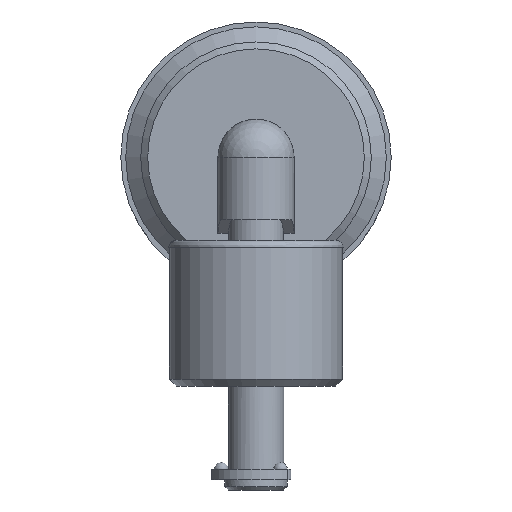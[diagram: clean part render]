
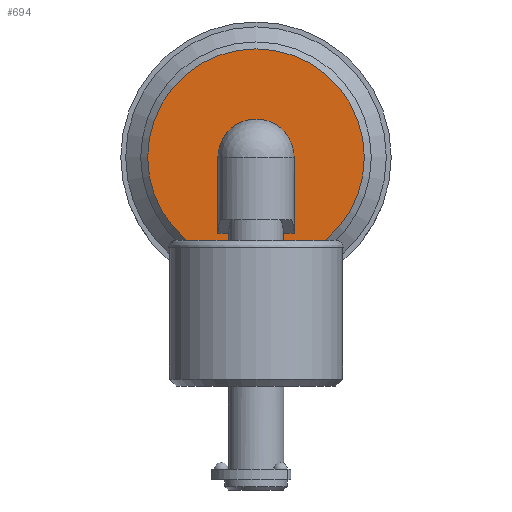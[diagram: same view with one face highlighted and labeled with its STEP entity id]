
A CAD part, front view. The second image highlights one B-rep face of the part: STEP entity #694.
In plain terms, the highlighted planar face has unit normal (0, -1, 0).
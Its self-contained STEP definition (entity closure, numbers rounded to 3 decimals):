
#598=FACE_BOUND('',#895,.T.);
#599=FACE_BOUND('',#896,.T.);
#694=ADVANCED_FACE('',(#598,#599),#780,.T.);
#780=PLANE('',#1917);
#895=EDGE_LOOP('',(#1175));
#896=EDGE_LOOP('',(#1176));
#1175=ORIENTED_EDGE('',*,*,#1653,.F.);
#1176=ORIENTED_EDGE('',*,*,#1654,.T.);
#1523=VERTEX_POINT('',#2612);
#1524=VERTEX_POINT('',#2614);
#1653=EDGE_CURVE('',#1523,#1523,#1809,.T.);
#1654=EDGE_CURVE('',#1524,#1524,#1810,.T.);
#1809=CIRCLE('',#1915,5.5);
#1810=CIRCLE('',#1916,15.625);
#1915=AXIS2_PLACEMENT_3D('',#2611,#2155,#2156);
#1916=AXIS2_PLACEMENT_3D('',#2613,#2157,#2158);
#1917=AXIS2_PLACEMENT_3D('',#2615,#2159,#2160);
#2155=DIRECTION('',(0.,-1.,0.));
#2156=DIRECTION('',(0.,0.,-1.));
#2157=DIRECTION('',(0.,-1.,0.));
#2158=DIRECTION('',(0.,0.,1.));
#2159=DIRECTION('',(0.,-1.,0.));
#2160=DIRECTION('',(-1.,0.,0.));
#2611=CARTESIAN_POINT('',(0.,19.,0.));
#2612=CARTESIAN_POINT('',(5.5,19.,0.));
#2613=CARTESIAN_POINT('',(0.,19.,0.));
#2614=CARTESIAN_POINT('',(0.,19.,15.625));
#2615=CARTESIAN_POINT('',(17.187,19.,17.187));
